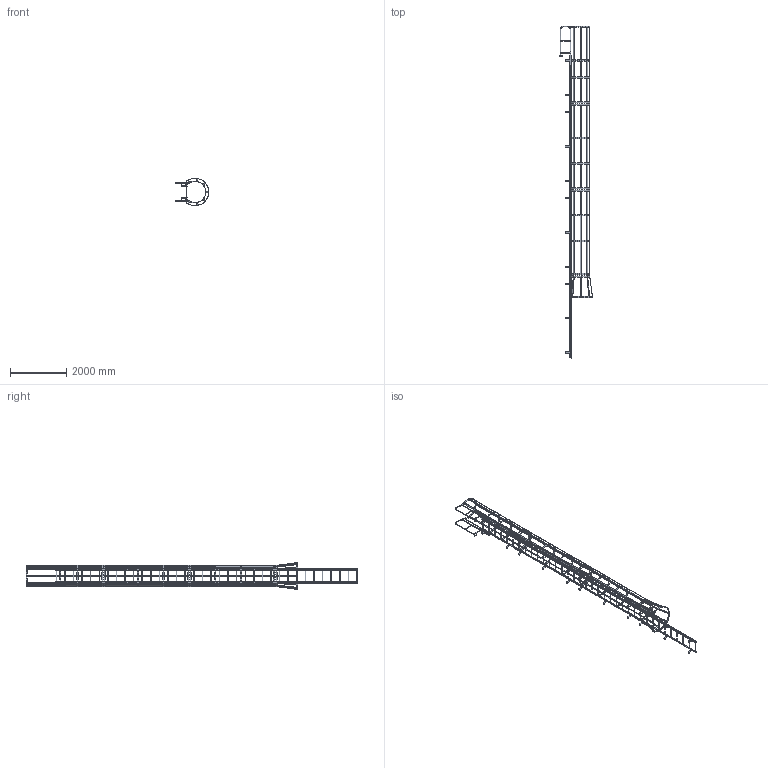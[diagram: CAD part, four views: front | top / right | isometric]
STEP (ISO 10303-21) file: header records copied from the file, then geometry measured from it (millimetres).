
FILE_DESCRIPTION(/* description */ (''),/* implementation_level */ '2;1');
FILE_NAME(/* name */ 'C:\Vault Working Folder\Company\Cotterman\3057\3570397 F36WC SIMPLIFIED PART.stp',/* time_stamp */ '2020-05-06T12:44:43-04:00',/* author */ ('karen'),/* organization */ (''),/* preprocessor_version */ 'ST-DEVELOPER v18',/* originating_system */ 'Autodesk Inventor 2020',/* authorisation */ '');
FILE_SCHEMA (('AUTOMOTIVE_DESIGN { 1 0 10303 214 3 1 1 }'));
Length unit declared in the file: centimetre
Products named in the file (1): 3570397 F36WC SIMPLIFIED PART
Bounding box: 1195.62 x 11782.42 x 977.88 mm (x, y, z)
Volume: 41436096.7 mm3; surface area: 15557667.6 mm2
Topology: 49 solids, 49 shells, 1366 faces, 4296 edges, 2808 vertices
Faces by surface type: plane 904, cylinder 454, torus 8
Full cylindrical faces by diameter (mm): 10.319 x4, 14.287 x28, 19.05 x36, 22.098 x10, 22.225 x72, 25.4 x8
Entity records: 50658 total; most frequent: CARTESIAN_POINT 8939, ORIENTED_EDGE 8680, DIRECTION 8322, EDGE_CURVE 4340, LINE 3044, VECTOR 3044, VERTEX_POINT 2824, AXIS2_PLACEMENT_3D 2639
